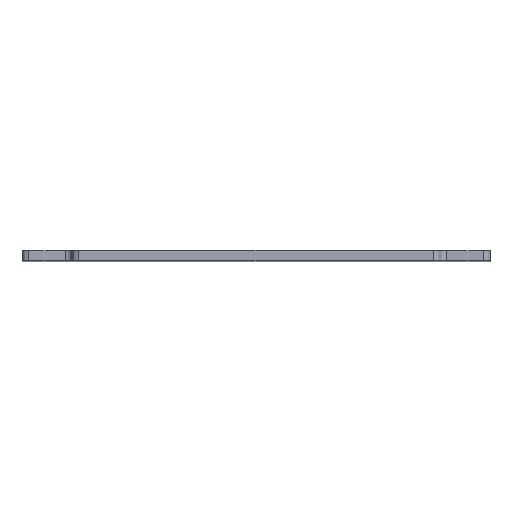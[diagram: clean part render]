
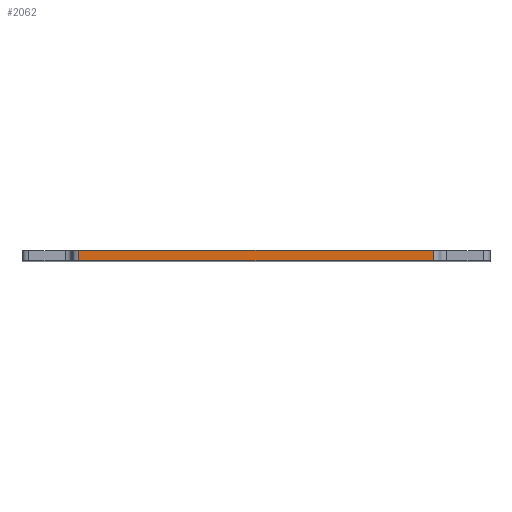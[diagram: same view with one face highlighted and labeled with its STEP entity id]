
A CAD part, top view. The second image highlights one B-rep face of the part: STEP entity #2062.
In plain terms, the highlighted planar face has unit normal (0, 0, 1).
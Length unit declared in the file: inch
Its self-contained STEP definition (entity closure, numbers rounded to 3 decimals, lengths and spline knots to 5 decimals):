
#163=PLANE('',#2318);
#256=FACE_OUTER_BOUND('',#414,.T.);
#414=EDGE_LOOP('',(#1791,#1792,#1793,#1794));
#563=LINE('',#3374,#691);
#590=LINE('',#3446,#718);
#594=LINE('',#3455,#722);
#607=LINE('',#3489,#735);
#691=VECTOR('',#2809,0.3937);
#718=VECTOR('',#2876,0.3937);
#722=VECTOR('',#2886,0.3937);
#735=VECTOR('',#2927,0.3937);
#1034=VERTEX_POINT('',#3371);
#1035=VERTEX_POINT('',#3373);
#1060=VERTEX_POINT('',#3444);
#1061=VERTEX_POINT('',#3451);
#1284=EDGE_CURVE('',#1035,#1034,#563,.T.);
#1320=EDGE_CURVE('',#1060,#1034,#590,.T.);
#1325=EDGE_CURVE('',#1035,#1061,#594,.T.);
#1342=EDGE_CURVE('',#1061,#1060,#607,.T.);
#1791=ORIENTED_EDGE('',*,*,#1320,.F.);
#1792=ORIENTED_EDGE('',*,*,#1342,.F.);
#1793=ORIENTED_EDGE('',*,*,#1325,.F.);
#1794=ORIENTED_EDGE('',*,*,#1284,.T.);
#2062=ADVANCED_FACE('',(#256),#163,.T.);
#2318=AXIS2_PLACEMENT_3D('',#3488,#2925,#2926);
#2809=DIRECTION('',(1.,0.,0.));
#2876=DIRECTION('',(0.,-1.,0.));
#2886=DIRECTION('',(0.,1.,0.));
#2925=DIRECTION('center_axis',(0.,0.,1.));
#2926=DIRECTION('ref_axis',(1.,0.,0.));
#2927=DIRECTION('',(1.,0.,0.));
#3371=CARTESIAN_POINT('',(3.7775,0.,0.));
#3373=CARTESIAN_POINT('',(0.5225,0.,0.));
#3374=CARTESIAN_POINT('',(0.,0.,0.));
#3444=CARTESIAN_POINT('',(3.7775,0.093,0.));
#3446=CARTESIAN_POINT('',(3.7775,0.,0.));
#3451=CARTESIAN_POINT('',(0.5225,0.093,0.));
#3455=CARTESIAN_POINT('',(0.5225,0.,0.));
#3488=CARTESIAN_POINT('Origin',(0.46,0.,0.));
#3489=CARTESIAN_POINT('',(0.,0.093,0.));
